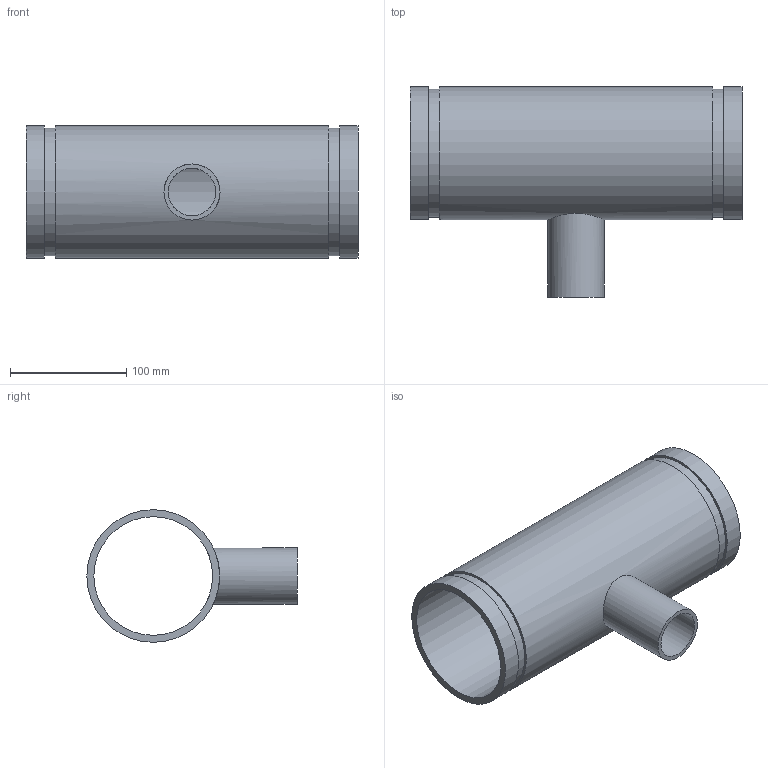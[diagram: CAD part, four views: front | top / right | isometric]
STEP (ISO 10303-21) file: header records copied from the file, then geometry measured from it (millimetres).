
FILE_DESCRIPTION(/* description */ ('VIC REDUCING TEE No 29T FFT (OGSxMPT)','CAx-IF Rec.Pracs.---Representation and Presentation of Product Manufacturing Information (PMI)---4.0---2014-10-13'),/* implementation_level */ '2;1');
FILE_NAME(/* name */ 'C:\Users\kkamble\AppData\Roaming\Autodesk\ApplicationPlugins\Back Up\Victaulic_IPS_Tee Reducing_No 29T FFT (OGSxMPT)\Victaulic_IPS_Tee Reducing_No 29T FFT (OGSxMPT)_04.0x01.5 (100x40).stp',/* time_stamp */ '2020-09-16T22:37:55+05:00',/* author */ ('CORINNE GRAY'),/* organization */ ('Victaulic'),/* preprocessor_version */ 'ST-DEVELOPER v17.2',/* originating_system */ 'Autodesk Inventor 2019',/* authorisation */ '');
FILE_SCHEMA (('AP242_MANAGED_MODEL_BASED_3D_ENGINEERING_MIM_LF { 1 0 10303 442 1 1 4 }'));
Length unit declared in the file: inch
Products named in the file (1): 29 FFT-04.0x01.5
Bounding box: 286 x 181.1 x 114.3 mm (x, y, z)
Volume: 599079.4 mm3; surface area: 218853.1 mm2
Topology: 1 solids, 1 shells, 15 faces, 32 edges, 24 vertices
Faces by surface type: cylinder 8, plane 7
Full cylindrical faces by diameter (mm): 40.894 x1, 48.26 x1, 102.26 x1, 110.084 x2, 114.3 x3
Entity records: 709 total; most frequent: CARTESIAN_POINT 221, DIRECTION 106, ORIENTED_EDGE 64, AXIS2_PLACEMENT_3D 49, EDGE_CURVE 32, EDGE_LOOP 24, VERTEX_POINT 24, CIRCLE 20
